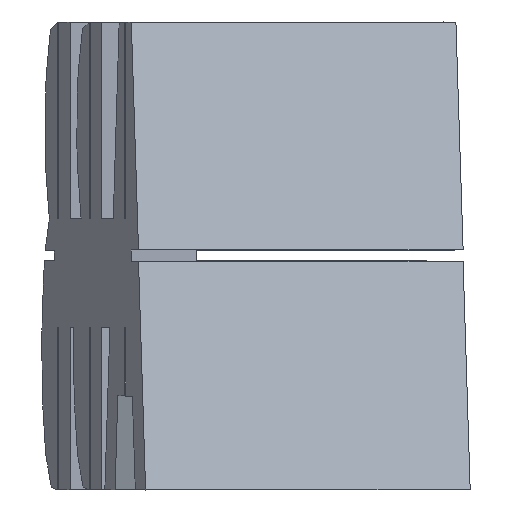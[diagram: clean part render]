
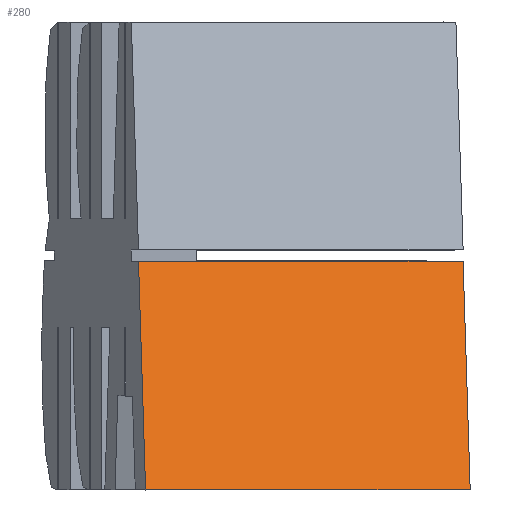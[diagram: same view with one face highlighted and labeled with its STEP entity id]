
A CAD part, left-side view. The second image highlights one B-rep face of the part: STEP entity #280.
In plain terms, the highlighted planar face has unit normal (-0.939, -0.082, 0.334).
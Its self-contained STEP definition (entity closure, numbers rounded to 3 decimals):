
#128 = CARTESIAN_POINT ( 'NONE',  ( 877.362, -77.603, 1710.432 ) ) ;
#175 = LINE ( 'NONE', #2958, #2158 ) ;
#261 = AXIS2_PLACEMENT_3D ( 'NONE', #3208, #3131, #3149 ) ;
#280 = ADVANCED_FACE ( 'NONE', ( #2498 ), #3172, .F. ) ;
#352 = CARTESIAN_POINT ( 'NONE',  ( 872.174, -82.574, 1694.635 ) ) ;
#353 = EDGE_CURVE ( 'NONE', #503, #1405, #175, .T. ) ;
#503 = VERTEX_POINT ( 'NONE', #2711 ) ;
#531 = EDGE_CURVE ( 'NONE', #1405, #3106, #2979, .T. ) ;
#739 = CARTESIAN_POINT ( 'NONE',  ( 873.743, -100.506, 1694.635 ) ) ;
#948 = LINE ( 'NONE', #128, #1547 ) ;
#962 = VERTEX_POINT ( 'NONE', #1239 ) ;
#1239 = CARTESIAN_POINT ( 'NONE',  ( 871.782, -78.091, 1694.635 ) ) ;
#1405 = VERTEX_POINT ( 'NONE', #1929 ) ;
#1427 = EDGE_CURVE ( 'NONE', #503, #962, #948, .T. ) ;
#1547 = VECTOR ( 'NONE', #2474, 1000. ) ;
#1578 = VECTOR ( 'NONE', #2456, 1000. ) ;
#1929 = CARTESIAN_POINT ( 'NONE',  ( 879.323, -100.017, 1710.432 ) ) ;
#1969 = EDGE_LOOP ( 'NONE', ( #3352, #2284, #2365, #2950 ) ) ;
#2025 = EDGE_CURVE ( 'NONE', #962, #3106, #2293, .T. ) ;
#2158 = VECTOR ( 'NONE', #2969, 1000. ) ;
#2284 = ORIENTED_EDGE ( 'NONE', *, *, #531, .F. ) ;
#2287 = VECTOR ( 'NONE', #2520, 1000. ) ;
#2293 = LINE ( 'NONE', #352, #1578 ) ;
#2365 = ORIENTED_EDGE ( 'NONE', *, *, #353, .F. ) ;
#2456 = DIRECTION ( 'NONE',  ( 0.087, -0.996, 0. ) ) ;
#2474 = DIRECTION ( 'NONE',  ( -0.333, -0.029, -0.943 ) ) ;
#2498 = FACE_OUTER_BOUND ( 'NONE', #1969, .T. ) ;
#2513 = CARTESIAN_POINT ( 'NONE',  ( 873.743, -100.506, 1694.635 ) ) ;
#2520 = DIRECTION ( 'NONE',  ( -0.333, -0.029, -0.943 ) ) ;
#2711 = CARTESIAN_POINT ( 'NONE',  ( 877.362, -77.603, 1710.432 ) ) ;
#2950 = ORIENTED_EDGE ( 'NONE', *, *, #1427, .T. ) ;
#2958 = CARTESIAN_POINT ( 'NONE',  ( 877.754, -82.086, 1710.432 ) ) ;
#2969 = DIRECTION ( 'NONE',  ( 0.087, -0.996, 0. ) ) ;
#2979 = LINE ( 'NONE', #2513, #2287 ) ;
#3106 = VERTEX_POINT ( 'NONE', #739 ) ;
#3131 = DIRECTION ( 'NONE',  ( 0.939, 0.082, -0.334 ) ) ;
#3149 = DIRECTION ( 'NONE',  ( -0.333, -0.029, -0.943 ) ) ;
#3172 = PLANE ( 'NONE',  #261 ) ;
#3208 = CARTESIAN_POINT ( 'NONE',  ( 872.174, -82.574, 1694.635 ) ) ;
#3352 = ORIENTED_EDGE ( 'NONE', *, *, #2025, .T. ) ;
